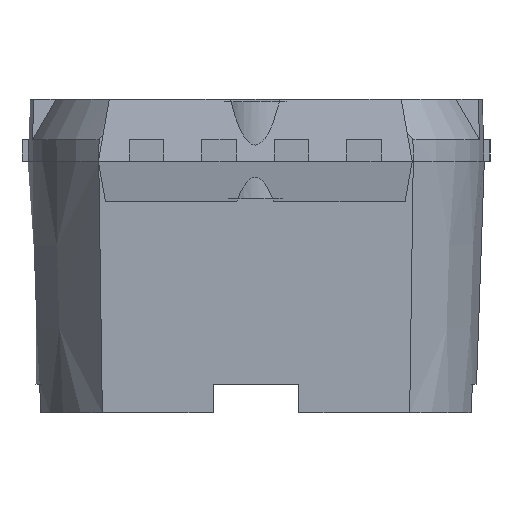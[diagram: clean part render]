
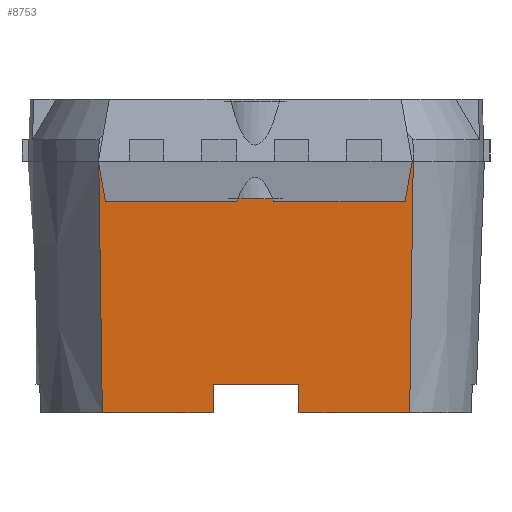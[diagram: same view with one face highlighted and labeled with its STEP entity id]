
A CAD part, front view. The second image highlights one B-rep face of the part: STEP entity #8753.
In plain terms, the highlighted planar face has unit normal (0, -0.999, -0.035).
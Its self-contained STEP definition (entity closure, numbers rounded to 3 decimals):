
#2 = VERTEX_POINT ( 'NONE', #3908 ) ;
#50 = VECTOR ( 'NONE', #2101, 1000. ) ;
#164 = B_SPLINE_CURVE_WITH_KNOTS ( 'NONE', 3,
 ( #4229, #8312, #7641, #204 ),
 .UNSPECIFIED., .F., .F.,
 ( 4, 4 ),
 ( 0., 0.004 ),
 .UNSPECIFIED. ) ;
#194 = VECTOR ( 'NONE', #6131, 1000. ) ;
#204 = CARTESIAN_POINT ( 'NONE',  ( 242.895, 10.332, -51.849 ) ) ;
#308 = ORIENTED_EDGE ( 'NONE', *, *, #4976, .F. ) ;
#345 = EDGE_CURVE ( 'NONE', #8030, #5487, #3224, .T. ) ;
#346 = CARTESIAN_POINT ( 'NONE',  ( 239.204, 10.332, -51.849 ) ) ;
#366 = LINE ( 'NONE', #6271, #3944 ) ;
#738 = CARTESIAN_POINT ( 'NONE',  ( 242.895, 10.332, -51.849 ) ) ;
#796 = DIRECTION ( 'NONE',  ( 1., 0., 0. ) ) ;
#828 = EDGE_CURVE ( 'NONE', #2938, #1240, #1429, .T. ) ;
#847 = EDGE_CURVE ( 'NONE', #2, #2938, #3519, .T. ) ;
#897 = EDGE_CURVE ( 'NONE', #6879, #5003, #1743, .T. ) ;
#1018 = DIRECTION ( 'NONE',  ( 0., -0.999, -0.035 ) ) ;
#1038 = ORIENTED_EDGE ( 'NONE', *, *, #1691, .T. ) ;
#1043 = LINE ( 'NONE', #5796, #1261 ) ;
#1094 = VECTOR ( 'NONE', #2581, 1000. ) ;
#1095 = CARTESIAN_POINT ( 'NONE',  ( 240.14, 10.486, -56.259 ) ) ;
#1167 = CARTESIAN_POINT ( 'NONE',  ( 239.804, 10.332, -51.849 ) ) ;
#1174 = CARTESIAN_POINT ( 'NONE',  ( 241.074, 10.332, -51.849 ) ) ;
#1225 = DIRECTION ( 'NONE',  ( 1., 0., 0. ) ) ;
#1240 = VERTEX_POINT ( 'NONE', #4271 ) ;
#1261 = VECTOR ( 'NONE', #1722, 1000. ) ;
#1285 = VECTOR ( 'NONE', #3142, 1000. ) ;
#1289 = VECTOR ( 'NONE', #4878, 1000. ) ;
#1339 = VECTOR ( 'NONE', #3815, 1000. ) ;
#1377 = CARTESIAN_POINT ( 'NONE',  ( 237.448, 10.486, -56.259 ) ) ;
#1429 = LINE ( 'NONE', #7242, #1339 ) ;
#1691 = EDGE_CURVE ( 'NONE', #5649, #7322, #164, .T. ) ;
#1722 = DIRECTION ( 'NONE',  ( 1., 0., 0. ) ) ;
#1743 = LINE ( 'NONE', #5288, #1094 ) ;
#1820 = LINE ( 'NONE', #6876, #50 ) ;
#1978 = LINE ( 'NONE', #6824, #194 ) ;
#1979 = VECTOR ( 'NONE', #3606, 1000. ) ;
#2101 = DIRECTION ( 'NONE',  ( 0., -0.035, 0.999 ) ) ;
#2112 = ORIENTED_EDGE ( 'NONE', *, *, #345, .T. ) ;
#2177 = VERTEX_POINT ( 'NONE', #7286 ) ;
#2431 = ORIENTED_EDGE ( 'NONE', *, *, #897, .T. ) ;
#2500 = ORIENTED_EDGE ( 'NONE', *, *, #2812, .F. ) ;
#2522 = B_SPLINE_CURVE_WITH_KNOTS ( 'NONE', 3,
 ( #2592, #8676, #3263, #8037 ),
 .UNSPECIFIED., .F., .F.,
 ( 4, 4 ),
 ( 0., 0.004 ),
 .UNSPECIFIED. ) ;
#2581 = DIRECTION ( 'NONE',  ( 1., 0., 0. ) ) ;
#2592 = CARTESIAN_POINT ( 'NONE',  ( 237.448, 10.486, -56.259 ) ) ;
#2675 = EDGE_CURVE ( 'NONE', #5487, #6879, #4889, .T. ) ;
#2725 = ORIENTED_EDGE ( 'NONE', *, *, #5744, .T. ) ;
#2776 = CARTESIAN_POINT ( 'NONE',  ( 237.934, 10.332, -51.849 ) ) ;
#2812 = EDGE_CURVE ( 'NONE', #4543, #4441, #1043, .T. ) ;
#2938 = VERTEX_POINT ( 'NONE', #1174 ) ;
#3005 = VECTOR ( 'NONE', #8229, 1000. ) ;
#3142 = DIRECTION ( 'NONE',  ( 1., 0., 0. ) ) ;
#3180 = VECTOR ( 'NONE', #5238, 1000. ) ;
#3224 = LINE ( 'NONE', #5325, #1979 ) ;
#3240 = ORIENTED_EDGE ( 'NONE', *, *, #847, .F. ) ;
#3263 = CARTESIAN_POINT ( 'NONE',  ( 237.406, 10.383, -53.319 ) ) ;
#3313 = VERTEX_POINT ( 'NONE', #1167 ) ;
#3421 = ORIENTED_EDGE ( 'NONE', *, *, #2675, .T. ) ;
#3506 = CARTESIAN_POINT ( 'NONE',  ( 239.39, 10.332, -51.849 ) ) ;
#3519 = LINE ( 'NONE', #5224, #4058 ) ;
#3606 = DIRECTION ( 'NONE',  ( 1., 0., 0. ) ) ;
#3610 = CARTESIAN_POINT ( 'NONE',  ( 242.344, 10.332, -51.849 ) ) ;
#3666 = ORIENTED_EDGE ( 'NONE', *, *, #6022, .F. ) ;
#3727 = CARTESIAN_POINT ( 'NONE',  ( 242.833, 10.486, -56.259 ) ) ;
#3773 = ORIENTED_EDGE ( 'NONE', *, *, #4184, .F. ) ;
#3815 = DIRECTION ( 'NONE',  ( 1., 0., 0. ) ) ;
#3900 = EDGE_CURVE ( 'NONE', #3313, #2, #1978, .T. ) ;
#3908 = CARTESIAN_POINT ( 'NONE',  ( 240.474, 10.332, -51.849 ) ) ;
#3935 = CARTESIAN_POINT ( 'NONE',  ( 240.89, 10.468, -55.759 ) ) ;
#3944 = VECTOR ( 'NONE', #7573, 1000. ) ;
#4058 = VECTOR ( 'NONE', #5937, 1000. ) ;
#4184 = EDGE_CURVE ( 'NONE', #4322, #7322, #6673, .T. ) ;
#4229 = CARTESIAN_POINT ( 'NONE',  ( 242.833, 10.486, -56.259 ) ) ;
#4271 = CARTESIAN_POINT ( 'NONE',  ( 241.744, 10.332, -51.849 ) ) ;
#4322 = VERTEX_POINT ( 'NONE', #3610 ) ;
#4360 = CARTESIAN_POINT ( 'NONE',  ( 240.14, 10.332, -51.849 ) ) ;
#4364 = LINE ( 'NONE', #6007, #6203 ) ;
#4441 = VERTEX_POINT ( 'NONE', #346 ) ;
#4466 = LINE ( 'NONE', #4848, #8097 ) ;
#4543 = VERTEX_POINT ( 'NONE', #5194 ) ;
#4625 = EDGE_CURVE ( 'NONE', #5351, #4543, #366, .T. ) ;
#4682 = ORIENTED_EDGE ( 'NONE', *, *, #7343, .F. ) ;
#4848 = CARTESIAN_POINT ( 'NONE',  ( 240.14, 10.332, -51.849 ) ) ;
#4878 = DIRECTION ( 'NONE',  ( 0., -0.035, 0.999 ) ) ;
#4885 = LINE ( 'NONE', #1095, #1285 ) ;
#4889 = LINE ( 'NONE', #3506, #1289 ) ;
#4942 = CARTESIAN_POINT ( 'NONE',  ( 239.39, 10.468, -55.759 ) ) ;
#4962 = CARTESIAN_POINT ( 'NONE',  ( 239.39, 10.486, -56.259 ) ) ;
#4976 = EDGE_CURVE ( 'NONE', #4441, #3313, #4364, .T. ) ;
#4988 = EDGE_CURVE ( 'NONE', #8030, #2177, #2522, .T. ) ;
#5003 = VERTEX_POINT ( 'NONE', #3935 ) ;
#5091 = CARTESIAN_POINT ( 'NONE',  ( 240.14, 10.332, -51.849 ) ) ;
#5194 = CARTESIAN_POINT ( 'NONE',  ( 238.534, 10.332, -51.849 ) ) ;
#5214 = LINE ( 'NONE', #7287, #3180 ) ;
#5224 = CARTESIAN_POINT ( 'NONE',  ( 240.14, 10.332, -51.849 ) ) ;
#5238 = DIRECTION ( 'NONE',  ( 1., 0., 0. ) ) ;
#5288 = CARTESIAN_POINT ( 'NONE',  ( 240.14, 10.468, -55.759 ) ) ;
#5325 = CARTESIAN_POINT ( 'NONE',  ( 240.14, 10.486, -56.259 ) ) ;
#5351 = VERTEX_POINT ( 'NONE', #2776 ) ;
#5358 = EDGE_CURVE ( 'NONE', #6891, #5003, #1820, .T. ) ;
#5487 = VERTEX_POINT ( 'NONE', #4962 ) ;
#5649 = VERTEX_POINT ( 'NONE', #3727 ) ;
#5744 = EDGE_CURVE ( 'NONE', #6891, #5649, #4885, .T. ) ;
#5762 = PLANE ( 'NONE',  #5804 ) ;
#5791 = DIRECTION ( 'NONE',  ( 0., 0.035, -0.999 ) ) ;
#5796 = CARTESIAN_POINT ( 'NONE',  ( 240.14, 10.332, -51.849 ) ) ;
#5804 = AXIS2_PLACEMENT_3D ( 'NONE', #5091, #1018, #5791 ) ;
#5895 = ORIENTED_EDGE ( 'NONE', *, *, #4988, .F. ) ;
#5937 = DIRECTION ( 'NONE',  ( 1., 0., 0. ) ) ;
#6007 = CARTESIAN_POINT ( 'NONE',  ( 240.14, 10.332, -51.849 ) ) ;
#6022 = EDGE_CURVE ( 'NONE', #2177, #5351, #5214, .T. ) ;
#6131 = DIRECTION ( 'NONE',  ( 1., 0., 0. ) ) ;
#6203 = VECTOR ( 'NONE', #1225, 1000. ) ;
#6271 = CARTESIAN_POINT ( 'NONE',  ( 240.14, 10.332, -51.849 ) ) ;
#6372 = CARTESIAN_POINT ( 'NONE',  ( 240.89, 10.486, -56.259 ) ) ;
#6673 = LINE ( 'NONE', #4360, #3005 ) ;
#6824 = CARTESIAN_POINT ( 'NONE',  ( 240.14, 10.332, -51.849 ) ) ;
#6876 = CARTESIAN_POINT ( 'NONE',  ( 240.89, 10.332, -51.849 ) ) ;
#6879 = VERTEX_POINT ( 'NONE', #4942 ) ;
#6891 = VERTEX_POINT ( 'NONE', #6372 ) ;
#6927 = ORIENTED_EDGE ( 'NONE', *, *, #828, .F. ) ;
#7242 = CARTESIAN_POINT ( 'NONE',  ( 240.14, 10.332, -51.849 ) ) ;
#7286 = CARTESIAN_POINT ( 'NONE',  ( 237.385, 10.332, -51.849 ) ) ;
#7287 = CARTESIAN_POINT ( 'NONE',  ( 240.14, 10.332, -51.849 ) ) ;
#7322 = VERTEX_POINT ( 'NONE', #738 ) ;
#7343 = EDGE_CURVE ( 'NONE', #1240, #4322, #4466, .T. ) ;
#7399 = FACE_OUTER_BOUND ( 'NONE', #7753, .T. ) ;
#7573 = DIRECTION ( 'NONE',  ( 1., 0., 0. ) ) ;
#7609 = ORIENTED_EDGE ( 'NONE', *, *, #3900, .F. ) ;
#7641 = CARTESIAN_POINT ( 'NONE',  ( 242.875, 10.383, -53.319 ) ) ;
#7753 = EDGE_LOOP ( 'NONE', ( #2112, #3421, #2431, #8206, #2725, #1038, #3773, #4682, #6927, #3240, #7609, #308, #2500, #8303, #3666, #5895 ) ) ;
#8030 = VERTEX_POINT ( 'NONE', #1377 ) ;
#8037 = CARTESIAN_POINT ( 'NONE',  ( 237.385, 10.332, -51.849 ) ) ;
#8097 = VECTOR ( 'NONE', #796, 1000. ) ;
#8206 = ORIENTED_EDGE ( 'NONE', *, *, #5358, .F. ) ;
#8229 = DIRECTION ( 'NONE',  ( 1., 0., 0. ) ) ;
#8303 = ORIENTED_EDGE ( 'NONE', *, *, #4625, .F. ) ;
#8312 = CARTESIAN_POINT ( 'NONE',  ( 242.854, 10.434, -54.789 ) ) ;
#8676 = CARTESIAN_POINT ( 'NONE',  ( 237.427, 10.434, -54.789 ) ) ;
#8753 = ADVANCED_FACE ( 'NONE', ( #7399 ), #5762, .T. ) ;
